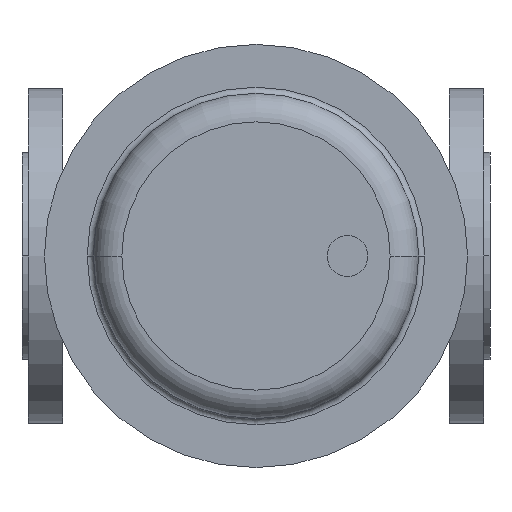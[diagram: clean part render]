
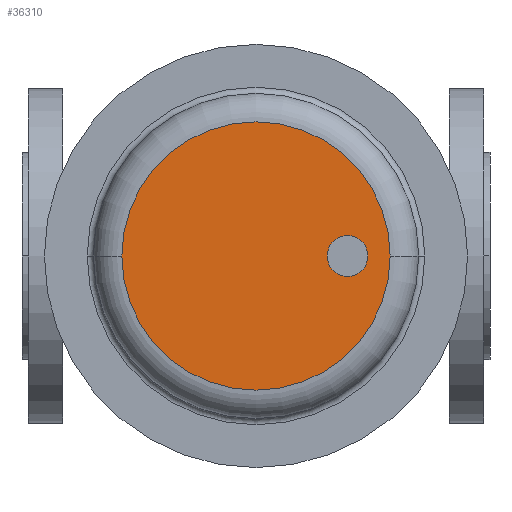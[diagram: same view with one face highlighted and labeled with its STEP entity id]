
A CAD part, front view. The second image highlights one B-rep face of the part: STEP entity #36310.
In plain terms, the highlighted planar face has unit normal (0, -1, 0).
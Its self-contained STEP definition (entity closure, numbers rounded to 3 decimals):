
#35770=CARTESIAN_POINT('',(180.93,-477.,0.));
#35780=VERTEX_POINT('',#35770);
#35810=CARTESIAN_POINT('',(115.,-477.,0.));
#35820=DIRECTION('',(0.,1.,0.));
#35830=DIRECTION('',(1.,0.,0.));
#35840=AXIS2_PLACEMENT_3D('',#35810,#35820,#35830);
#35850=CIRCLE('',#35840,65.93);
#35860=CARTESIAN_POINT('',(115.,-477.,65.93));
#35870=VERTEX_POINT('',#35860);
#35880=EDGE_CURVE('',#35870,#35780,#35850,.T.);
#35900=CARTESIAN_POINT('',(49.07,-477.,0.));
#35910=VERTEX_POINT('',#35900);
#35920=EDGE_CURVE('',#35910,#35870,#35850,.T.);
#36050=CARTESIAN_POINT('',(147.965,-477.,0.));
#36060=DIRECTION('',(0.,-1.,0.));
#36070=DIRECTION('',(-1.,0.,0.));
#36080=AXIS2_PLACEMENT_3D('',#36050,#36060,#36070);
#36090=PLANE('',#36080);
#36100=CARTESIAN_POINT('',(160.,-477.,0.));
#36110=DIRECTION('',(0.,1.,0.));
#36120=DIRECTION('',(1.,0.,0.));
#36130=AXIS2_PLACEMENT_3D('',#36100,#36110,#36120);
#36140=CIRCLE('',#36130,10.);
#36150=CARTESIAN_POINT('',(170.,-477.,0.));
#36160=VERTEX_POINT('',#36150);
#36170=CARTESIAN_POINT('',(150.,-477.,0.));
#36180=VERTEX_POINT('',#36170);
#36190=EDGE_CURVE('',#36160,#36180,#36140,.T.);
#36200=ORIENTED_EDGE('',*,*,#36190,.T.);
#36210=EDGE_CURVE('',#36180,#36160,#36140,.T.);
#36220=ORIENTED_EDGE('',*,*,#36210,.T.);
#36230=EDGE_LOOP('',(#36220,#36200));
#36240=FACE_BOUND('',#36230,.T.);
#36250=ORIENTED_EDGE('',*,*,#35880,.F.);
#36260=EDGE_CURVE('',#35780,#35910,#35850,.T.);
#36270=ORIENTED_EDGE('',*,*,#36260,.F.);
#36280=ORIENTED_EDGE('',*,*,#35920,.F.);
#36290=EDGE_LOOP('',(#36280,#36270,#36250));
#36300=FACE_OUTER_BOUND('',#36290,.T.);
#36310=ADVANCED_FACE('',(#36240,#36300),#36090,.T.);
